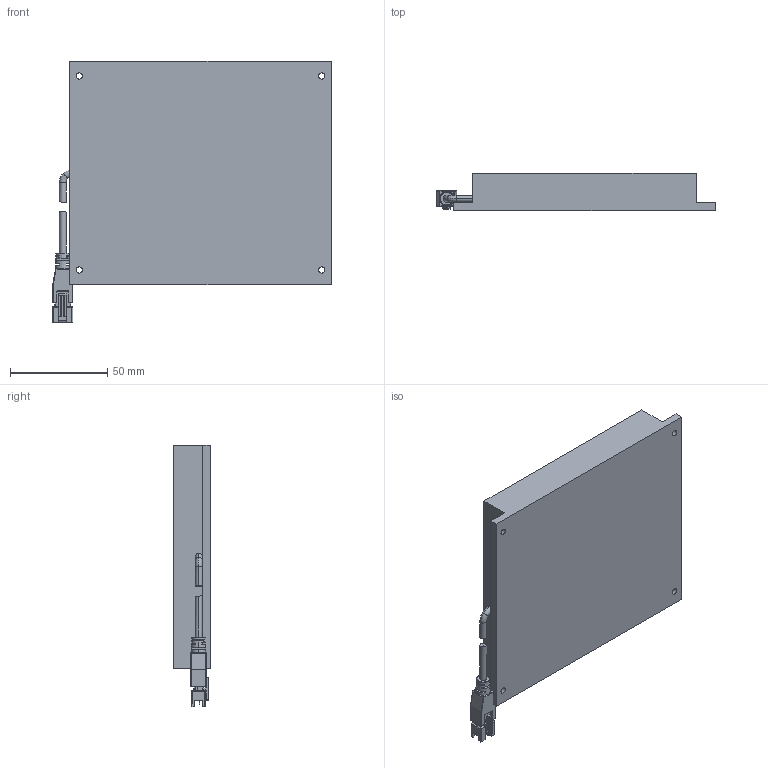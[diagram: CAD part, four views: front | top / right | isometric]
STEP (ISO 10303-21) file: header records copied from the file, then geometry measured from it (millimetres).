
FILE_DESCRIPTION((''),'2;1');
FILE_NAME('MV-LBSS-100-100_ASM','2019-09-19T',('Administrator'),(''),'PRO/ENGINEER BY PARAMETRIC TECHNOLOGY CORPORATION, 2010100','PRO/ENGINEER BY PARAMETRIC TECHNOLOGY CORPORATION, 2010100','');
FILE_SCHEMA(('CONFIG_CONTROL_DESIGN'));
Length unit declared in the file: millimetre
Products named in the file (5): WAIKE_4; LINE_TOU_74; BODY_12_5; ASSY_ASM_20_ASM; MV-LBSS-100-100_ASM
Assembly tree (4 placements, depth 3):
  MV-LBSS-100-100_ASM
    WAIKE_4
    ASSY_ASM_20_ASM
      LINE_TOU_74
      BODY_12_5
Bounding box: 143.74 x 19 x 134.61 mm (x, y, z)
Volume: 257785.6 mm3; surface area: 42756.6 mm2
Topology: 3 solids, 3 shells, 251 faces, 649 edges, 407 vertices
Faces by surface type: plane 143, cylinder 78, torus 12, bspline 8, sphere 8, cone 2
Entity records: 7897 total; most frequent: CARTESIAN_POINT 1623, DIRECTION 1301, ORIENTED_EDGE 1282, EDGE_CURVE 641, AXIS2_PLACEMENT_3D 444, VECTOR 413, LINE 413, VERTEX_POINT 407
